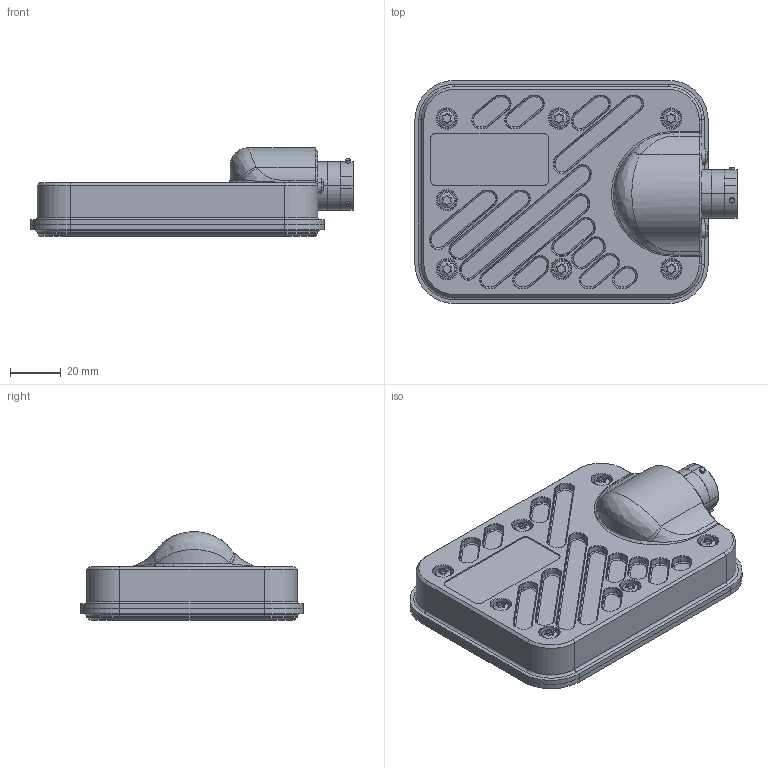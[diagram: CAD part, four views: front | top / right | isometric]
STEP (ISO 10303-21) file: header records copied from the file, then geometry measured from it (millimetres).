
FILE_DESCRIPTION(('CATIA V5 STEP Exchange'),'2;1');
FILE_NAME('T:\MCHL-E\251121_sent_to_AA\MCHL-E Assembly.stp','2025-11-21T13:39:33+00:00',('none'),('none'),'CATIA Version 5 Release 19 SP 9 (IN-10)','CATIA V5 STEP AP214','none');
FILE_SCHEMA(('AUTOMOTIVE_DESIGN { 1 0 10303 214 1 1 1 1 }'));
Length unit declared in the file: millimetre
Products named in the file (1): MCHL-E Assembly
Bounding box: 126.34 x 87.5 x 34.75 mm (x, y, z)
Volume: 1423.1 mm3; surface area: 36759.7 mm2
Topology: 9 solids, 125 shells, 844 faces, 2485 edges, 1774 vertices
Faces by surface type: cylinder 341, plane 212, cone 110, torus 101, bspline 62, sphere 18
Entity records: 27560 total; most frequent: CARTESIAN_POINT 8053, ORIENTED_EDGE 3942, DIRECTION 3085, EDGE_CURVE 2157, AXIS2_PLACEMENT_3D 1589, VERTEX_POINT 1446, EDGE_LOOP 918, CIRCLE 911
